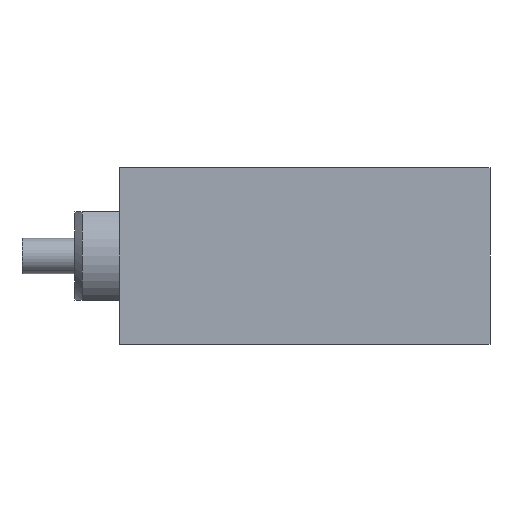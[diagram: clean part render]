
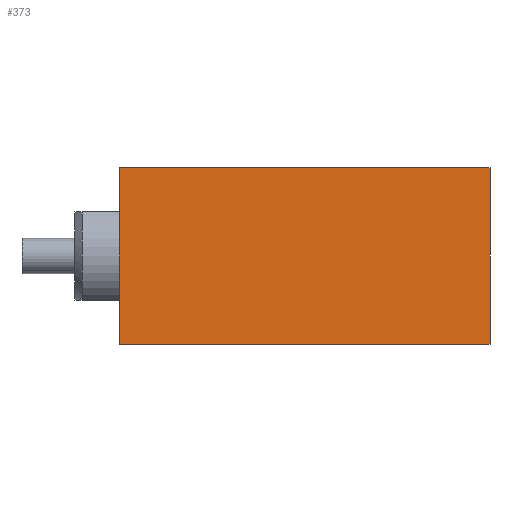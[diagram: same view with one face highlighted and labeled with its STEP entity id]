
A CAD part, front view. The second image highlights one B-rep face of the part: STEP entity #373.
In plain terms, the highlighted planar face has unit normal (0, -1, 0).
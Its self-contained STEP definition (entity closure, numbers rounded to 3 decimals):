
#58 = DIRECTION ( 'NONE',  ( -1., 0., 0. ) ) ;
#72 = CARTESIAN_POINT ( 'NONE',  ( 0., -7.5, 5. ) ) ;
#133 = EDGE_CURVE ( 'NONE', #2325, #266, #458, .T. ) ;
#239 = EDGE_LOOP ( 'NONE', ( #289, #1137, #465, #2533 ) ) ;
#251 = CARTESIAN_POINT ( 'NONE',  ( 21., -7.5, -5. ) ) ;
#266 = VERTEX_POINT ( 'NONE', #951 ) ;
#274 = AXIS2_PLACEMENT_3D ( 'NONE', #2393, #1612, #2022 ) ;
#289 = ORIENTED_EDGE ( 'NONE', *, *, #1548, .F. ) ;
#316 = CARTESIAN_POINT ( 'NONE',  ( 21., -7.5, 5. ) ) ;
#373 = ADVANCED_FACE ( 'NONE', ( #1822 ), #461, .T. ) ;
#458 = LINE ( 'NONE', #251, #931 ) ;
#461 = PLANE ( 'NONE',  #274 ) ;
#465 = ORIENTED_EDGE ( 'NONE', *, *, #133, .T. ) ;
#816 = DIRECTION ( 'NONE',  ( 0., 0., 1. ) ) ;
#858 = LINE ( 'NONE', #1820, #1599 ) ;
#890 = LINE ( 'NONE', #316, #2398 ) ;
#915 = EDGE_CURVE ( 'NONE', #2325, #1438, #1160, .T. ) ;
#931 = VECTOR ( 'NONE', #1609, 1000. ) ;
#951 = CARTESIAN_POINT ( 'NONE',  ( 21., -7.5, 5. ) ) ;
#962 = CARTESIAN_POINT ( 'NONE',  ( 21., -7.5, -5. ) ) ;
#1137 = ORIENTED_EDGE ( 'NONE', *, *, #915, .F. ) ;
#1160 = LINE ( 'NONE', #962, #1694 ) ;
#1381 = CARTESIAN_POINT ( 'NONE',  ( 0., -7.5, -5. ) ) ;
#1418 = CARTESIAN_POINT ( 'NONE',  ( 21., -7.5, -5. ) ) ;
#1438 = VERTEX_POINT ( 'NONE', #1381 ) ;
#1548 = EDGE_CURVE ( 'NONE', #1438, #2156, #858, .T. ) ;
#1599 = VECTOR ( 'NONE', #816, 1000. ) ;
#1609 = DIRECTION ( 'NONE',  ( 0., 0., 1. ) ) ;
#1612 = DIRECTION ( 'NONE',  ( 0., -1., 0. ) ) ;
#1694 = VECTOR ( 'NONE', #2517, 1000. ) ;
#1820 = CARTESIAN_POINT ( 'NONE',  ( 0., -7.5, -5. ) ) ;
#1822 = FACE_OUTER_BOUND ( 'NONE', #239, .T. ) ;
#2022 = DIRECTION ( 'NONE',  ( 1., 0., 0. ) ) ;
#2142 = EDGE_CURVE ( 'NONE', #266, #2156, #890, .T. ) ;
#2156 = VERTEX_POINT ( 'NONE', #72 ) ;
#2325 = VERTEX_POINT ( 'NONE', #1418 ) ;
#2393 = CARTESIAN_POINT ( 'NONE',  ( 21., -7.5, -5. ) ) ;
#2398 = VECTOR ( 'NONE', #58, 1000. ) ;
#2517 = DIRECTION ( 'NONE',  ( -1., 0., 0. ) ) ;
#2533 = ORIENTED_EDGE ( 'NONE', *, *, #2142, .T. ) ;
